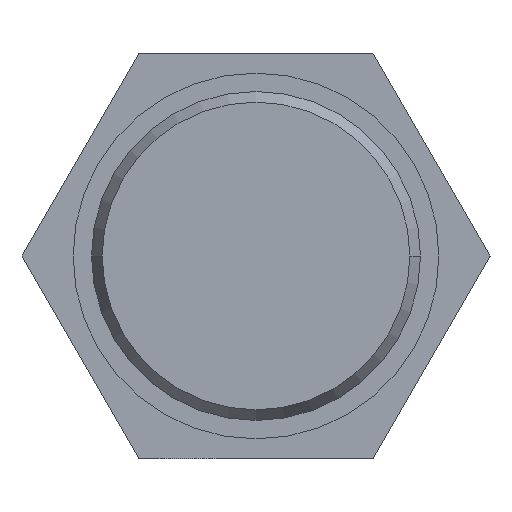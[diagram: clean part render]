
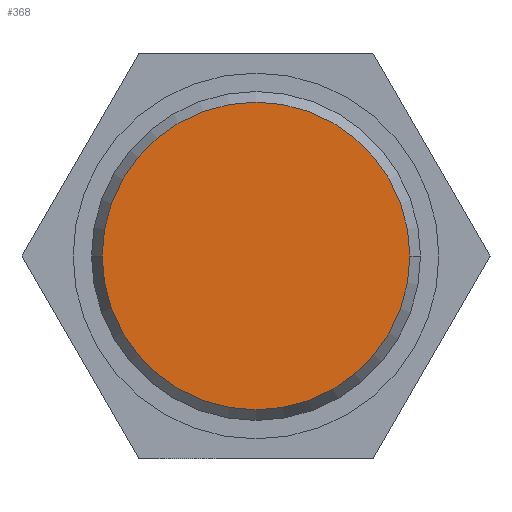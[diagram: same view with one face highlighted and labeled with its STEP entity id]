
A CAD part, left-side view. The second image highlights one B-rep face of the part: STEP entity #368.
In plain terms, the highlighted planar face has unit normal (-1, 0, 0).
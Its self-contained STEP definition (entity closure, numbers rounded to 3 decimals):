
#7 = DIRECTION ( 'NONE',  ( 0., 1., 0. ) ) ;
#13 = EDGE_CURVE ( 'NONE', #301, #742, #390, .T. ) ;
#32 = FACE_OUTER_BOUND ( 'NONE', #480, .T. ) ;
#65 = CARTESIAN_POINT ( 'NONE',  ( 0., 0., 0. ) ) ;
#76 = CARTESIAN_POINT ( 'NONE',  ( 0., 8.35, 0. ) ) ;
#89 = AXIS2_PLACEMENT_3D ( 'NONE', #188, #375, #316 ) ;
#188 = CARTESIAN_POINT ( 'NONE',  ( 0., 0., 0. ) ) ;
#269 = EDGE_CURVE ( 'NONE', #742, #301, #753, .T. ) ;
#290 = CARTESIAN_POINT ( 'NONE',  ( 0., 0., 0. ) ) ;
#301 = VERTEX_POINT ( 'NONE', #76 ) ;
#316 = DIRECTION ( 'NONE',  ( 0., -1., 0. ) ) ;
#351 = AXIS2_PLACEMENT_3D ( 'NONE', #65, #439, #7 ) ;
#368 = ADVANCED_FACE ( 'NONE', ( #32 ), #552, .T. ) ;
#375 = DIRECTION ( 'NONE',  ( -1., 0., 0. ) ) ;
#390 = CIRCLE ( 'NONE', #351, 8.35 ) ;
#439 = DIRECTION ( 'NONE',  ( 1., 0., 0. ) ) ;
#480 = EDGE_LOOP ( 'NONE', ( #587, #674 ) ) ;
#531 = AXIS2_PLACEMENT_3D ( 'NONE', #290, #788, #731 ) ;
#552 = PLANE ( 'NONE',  #89 ) ;
#587 = ORIENTED_EDGE ( 'NONE', *, *, #13, .F. ) ;
#674 = ORIENTED_EDGE ( 'NONE', *, *, #269, .F. ) ;
#726 = CARTESIAN_POINT ( 'NONE',  ( 0., -8.35, 0. ) ) ;
#731 = DIRECTION ( 'NONE',  ( 0., 1., 0. ) ) ;
#742 = VERTEX_POINT ( 'NONE', #726 ) ;
#753 = CIRCLE ( 'NONE', #531, 8.35 ) ;
#788 = DIRECTION ( 'NONE',  ( 1., 0., 0. ) ) ;
